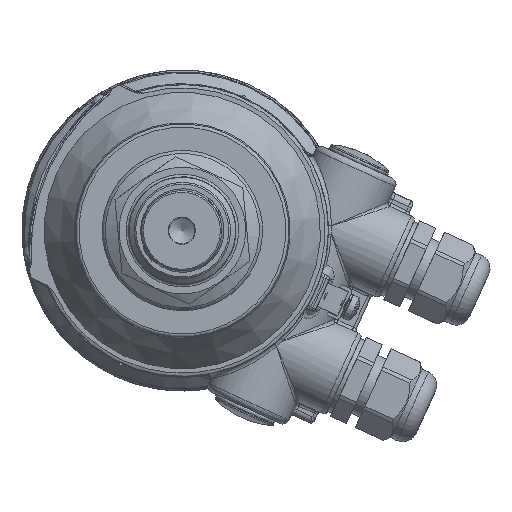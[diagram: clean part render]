
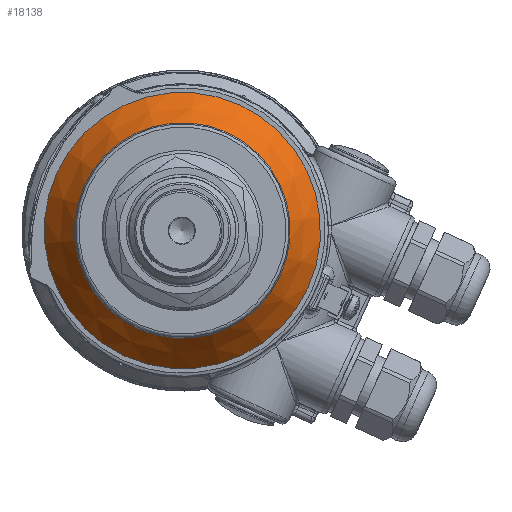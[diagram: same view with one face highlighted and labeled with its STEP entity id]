
A CAD part, front view. The second image highlights one B-rep face of the part: STEP entity #18138.
In plain terms, the highlighted conical face has half-angle 35 degrees and reference radius 38.151 mm.
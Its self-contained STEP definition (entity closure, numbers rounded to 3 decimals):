
#653=CONICAL_SURFACE('',#19595,38.151,35.);
#1299=FACE_BOUND('',#4209,.T.);
#2942=FACE_OUTER_BOUND('',#4208,.T.);
#4208=EDGE_LOOP('',(#13659));
#4209=EDGE_LOOP('',(#13660));
#7029=CIRCLE('',#19592,43.053);
#7030=CIRCLE('',#19594,33.612);
#8368=VERTEX_POINT('',#36131);
#8369=VERTEX_POINT('',#36134);
#10312=EDGE_CURVE('',#8368,#8368,#7029,.T.);
#10313=EDGE_CURVE('',#8369,#8369,#7030,.T.);
#13659=ORIENTED_EDGE('',*,*,#10312,.F.);
#13660=ORIENTED_EDGE('',*,*,#10313,.F.);
#18138=ADVANCED_FACE('',(#2942,#1299),#653,.T.);
#19592=AXIS2_PLACEMENT_3D('',#36132,#22447,#22448);
#19594=AXIS2_PLACEMENT_3D('',#36135,#22451,#22452);
#19595=AXIS2_PLACEMENT_3D('',#36136,#22453,#22454);
#22447=DIRECTION('center_axis',(0.,1.,0.));
#22448=DIRECTION('ref_axis',(1.,0.,0.));
#22451=DIRECTION('center_axis',(0.,-1.,0.));
#22452=DIRECTION('ref_axis',(1.,0.,0.));
#22453=DIRECTION('center_axis',(0.,1.,0.));
#22454=DIRECTION('ref_axis',(-1.,0.,0.));
#36131=CARTESIAN_POINT('',(-43.053,18.5,0.));
#36132=CARTESIAN_POINT('Origin',(0.,18.5,0.));
#36134=CARTESIAN_POINT('',(-33.612,5.017,0.));
#36135=CARTESIAN_POINT('Origin',(0.,5.017,0.));
#36136=CARTESIAN_POINT('Origin',(0.,11.5,0.));
